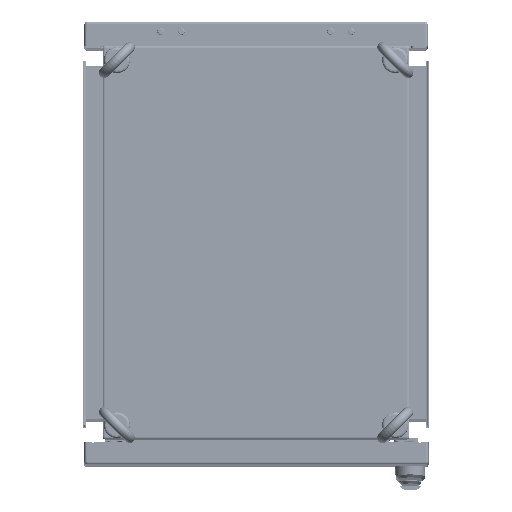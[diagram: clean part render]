
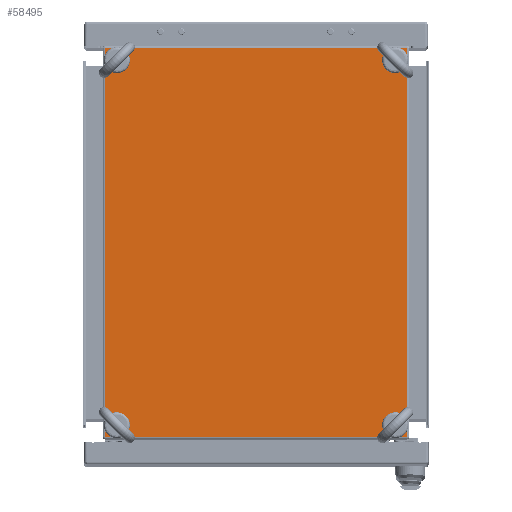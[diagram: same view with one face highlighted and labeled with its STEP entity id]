
A CAD part, top view. The second image highlights one B-rep face of the part: STEP entity #58495.
In plain terms, the highlighted planar face has unit normal (0, 0, 1).
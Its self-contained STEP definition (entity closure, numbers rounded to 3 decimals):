
#6342=LINE('',#95656,#12158);
#6343=LINE('',#95659,#12159);
#6344=LINE('',#95661,#12160);
#6345=LINE('',#95663,#12161);
#12158=VECTOR('',#77146,1000.);
#12159=VECTOR('',#77147,1000.);
#12160=VECTOR('',#77148,1000.);
#12161=VECTOR('',#77149,1000.);
#23648=ORIENTED_EDGE('',*,*,#34988,.F.);
#23649=ORIENTED_EDGE('',*,*,#34989,.F.);
#23650=ORIENTED_EDGE('',*,*,#34990,.F.);
#23651=ORIENTED_EDGE('',*,*,#34991,.F.);
#23652=ORIENTED_EDGE('',*,*,#34992,.T.);
#23653=ORIENTED_EDGE('',*,*,#34993,.F.);
#23654=ORIENTED_EDGE('',*,*,#34994,.T.);
#23655=ORIENTED_EDGE('',*,*,#34995,.T.);
#34988=EDGE_CURVE('',#41555,#41555,#44461,.T.);
#34989=EDGE_CURVE('',#41556,#41556,#44462,.T.);
#34990=EDGE_CURVE('',#41557,#41557,#44463,.T.);
#34991=EDGE_CURVE('',#41558,#41558,#44464,.T.);
#34992=EDGE_CURVE('',#41559,#41560,#6342,.T.);
#34993=EDGE_CURVE('',#41561,#41560,#6343,.F.);
#34994=EDGE_CURVE('',#41561,#41562,#6344,.T.);
#34995=EDGE_CURVE('',#41562,#41559,#6345,.T.);
#41555=VERTEX_POINT('',#95649);
#41556=VERTEX_POINT('',#95651);
#41557=VERTEX_POINT('',#95653);
#41558=VERTEX_POINT('',#95655);
#41559=VERTEX_POINT('',#95657);
#41560=VERTEX_POINT('',#95658);
#41561=VERTEX_POINT('',#95660);
#41562=VERTEX_POINT('',#95662);
#44461=CIRCLE('',#65540,6.5);
#44462=CIRCLE('',#65541,6.5);
#44463=CIRCLE('',#65542,6.5);
#44464=CIRCLE('',#65543,6.5);
#48352=EDGE_LOOP('',(#23648));
#48353=EDGE_LOOP('',(#23649));
#48354=EDGE_LOOP('',(#23650));
#48355=EDGE_LOOP('',(#23651));
#48356=EDGE_LOOP('',(#23652,#23653,#23654,#23655));
#52969=FACE_BOUND('',#48352,.T.);
#52970=FACE_BOUND('',#48353,.T.);
#52971=FACE_BOUND('',#48354,.T.);
#52972=FACE_BOUND('',#48355,.T.);
#52973=FACE_BOUND('',#48356,.T.);
#56012=PLANE('',#65539);
#58495=ADVANCED_FACE('',(#52969,#52970,#52971,#52972,#52973),#56012,.F.);
#65539=AXIS2_PLACEMENT_3D('',#95647,#77136,#77137);
#65540=AXIS2_PLACEMENT_3D('',#95648,#77138,#77139);
#65541=AXIS2_PLACEMENT_3D('',#95650,#77140,#77141);
#65542=AXIS2_PLACEMENT_3D('',#95652,#77142,#77143);
#65543=AXIS2_PLACEMENT_3D('',#95654,#77144,#77145);
#77136=DIRECTION('',(0.,0.,-1.));
#77137=DIRECTION('',(-1.,0.,0.));
#77138=DIRECTION('',(0.,0.,1.));
#77139=DIRECTION('',(1.,0.,0.));
#77140=DIRECTION('',(0.,0.,1.));
#77141=DIRECTION('',(1.,0.,0.));
#77142=DIRECTION('',(0.,0.,1.));
#77143=DIRECTION('',(1.,0.,0.));
#77144=DIRECTION('',(0.,0.,1.));
#77145=DIRECTION('',(1.,0.,0.));
#77146=DIRECTION('',(0.,-1.,0.));
#77147=DIRECTION('',(1.,0.,0.));
#77148=DIRECTION('',(0.,1.,0.));
#77149=DIRECTION('',(-1.,0.,0.));
#95647=CARTESIAN_POINT('',(0.,0.,0.));
#95648=CARTESIAN_POINT('',(160.5,210.5,0.));
#95649=CARTESIAN_POINT('',(167.,210.5,0.));
#95650=CARTESIAN_POINT('',(-160.5,210.5,0.));
#95651=CARTESIAN_POINT('',(-154.,210.5,0.));
#95652=CARTESIAN_POINT('',(160.5,-210.5,0.));
#95653=CARTESIAN_POINT('',(167.,-210.5,0.));
#95654=CARTESIAN_POINT('',(-160.5,-210.5,0.));
#95655=CARTESIAN_POINT('',(-154.,-210.5,0.));
#95656=CARTESIAN_POINT('',(-174.2,224.2,0.));
#95657=CARTESIAN_POINT('',(-174.2,224.2,0.));
#95658=CARTESIAN_POINT('',(-174.2,-224.2,0.));
#95659=CARTESIAN_POINT('',(174.2,-224.2,0.));
#95660=CARTESIAN_POINT('',(174.2,-224.2,0.));
#95661=CARTESIAN_POINT('',(174.2,-224.2,0.));
#95662=CARTESIAN_POINT('',(174.2,224.2,0.));
#95663=CARTESIAN_POINT('',(174.2,224.2,0.));
